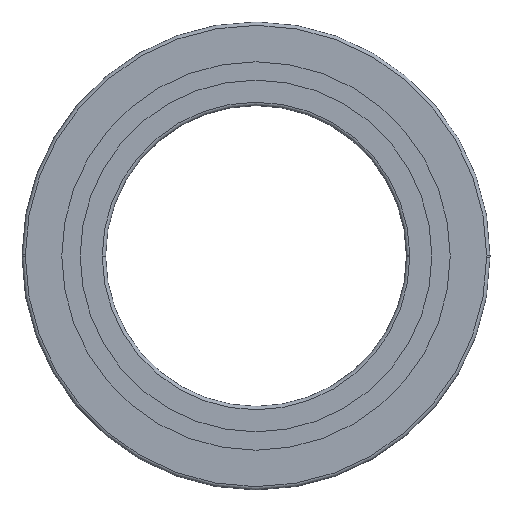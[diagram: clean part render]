
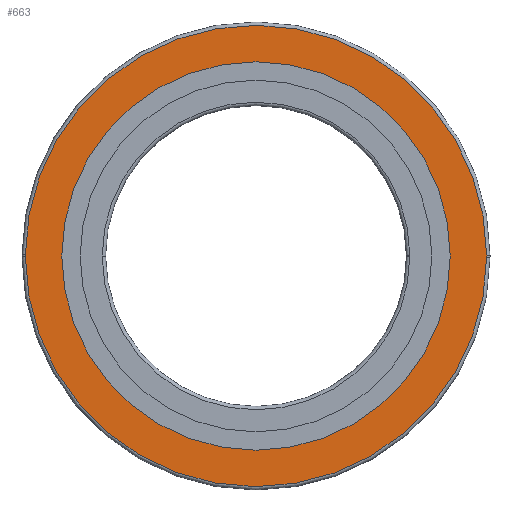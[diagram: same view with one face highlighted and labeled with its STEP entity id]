
A CAD part, front view. The second image highlights one B-rep face of the part: STEP entity #663.
In plain terms, the highlighted planar face has unit normal (0, -1, 0).
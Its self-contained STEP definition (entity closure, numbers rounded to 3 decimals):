
#363=VERTEX_POINT('',#908);
#379=VERTEX_POINT('',#925);
#405=EDGE_CURVE('',#653,#363,#951,.T.);
#413=EDGE_CURVE('',#689,#611,#961,.T.);
#507=VERTEX_POINT('',#1067);
#515=EDGE_CURVE('',#507,#379,#1076,.T.);
#611=VERTEX_POINT('',#1186);
#653=VERTEX_POINT('',#1233);
#663=ADVANCED_FACE('',(#1243,#1244),#1245,.F.);
#689=VERTEX_POINT('',#1273);
#753=EDGE_CURVE('',#363,#689,#1345,.T.);
#755=EDGE_CURVE('',#611,#653,#1347,.T.);
#757=EDGE_CURVE('',#379,#507,#1349,.T.);
#908=CARTESIAN_POINT('',(69.0,0.0,0.0));
#925=CARTESIAN_POINT('',(58.1,0.0,0.0));
#951=CIRCLE('',#1579,69.0);
#961=CIRCLE('',#1591,69.0);
#1067=CARTESIAN_POINT('',(-58.1,0.0,0.0));
#1076=CIRCLE('',#1727,58.1);
#1186=CARTESIAN_POINT('',(-69.0,0.0,0.0));
#1233=CARTESIAN_POINT('',(68.999,0.0,-0.427));
#1243=FACE_OUTER_BOUND('',#1929,.T.);
#1244=FACE_BOUND('',#1930,.T.);
#1245=PLANE('',#1931);
#1273=CARTESIAN_POINT('',(-68.999,0.0,0.427));
#1345=CIRCLE('',#2058,69.0);
#1347=CIRCLE('',#2061,69.0);
#1349=CIRCLE('',#2064,58.1);
#1579=AXIS2_PLACEMENT_3D('',#2273,#2274,#2275);
#1591=AXIS2_PLACEMENT_3D('',#2289,#2290,#2291);
#1727=AXIS2_PLACEMENT_3D('',#2463,#2464,#2465);
#1929=EDGE_LOOP('',(#2682,#2683,#2684,#2685));
#1930=EDGE_LOOP('',(#2686,#2687));
#1931=AXIS2_PLACEMENT_3D('',#2688,#2689,#2690);
#2058=AXIS2_PLACEMENT_3D('',#2808,#2809,#2810);
#2061=AXIS2_PLACEMENT_3D('',#2811,#2812,#2813);
#2064=AXIS2_PLACEMENT_3D('',#2814,#2815,#2816);
#2273=CARTESIAN_POINT('',(0.0,0.0,0.0));
#2274=DIRECTION('',(0.0,-1.0,0.0));
#2275=DIRECTION('',(-1.0,0.0,0.0));
#2289=CARTESIAN_POINT('',(0.0,0.0,0.0));
#2290=DIRECTION('',(0.0,-1.0,0.0));
#2291=DIRECTION('',(1.0,0.0,0.0));
#2463=CARTESIAN_POINT('',(0.0,0.0,0.0));
#2464=DIRECTION('',(0.0,-1.0,0.0));
#2465=DIRECTION('',(-1.0,0.0,0.0));
#2682=ORIENTED_EDGE('',*,*,#753,.T.);
#2683=ORIENTED_EDGE('',*,*,#413,.T.);
#2684=ORIENTED_EDGE('',*,*,#755,.T.);
#2685=ORIENTED_EDGE('',*,*,#405,.T.);
#2686=ORIENTED_EDGE('',*,*,#515,.F.);
#2687=ORIENTED_EDGE('',*,*,#757,.F.);
#2688=CARTESIAN_POINT('',(0.0,0.0,0.0));
#2689=DIRECTION('',(0.0,1.0,0.0));
#2690=DIRECTION('',(1.0,0.0,-0.0));
#2808=CARTESIAN_POINT('',(0.0,0.0,0.0));
#2809=DIRECTION('',(0.0,-1.0,0.0));
#2810=DIRECTION('',(1.0,0.0,0.0));
#2811=CARTESIAN_POINT('',(0.0,0.0,0.0));
#2812=DIRECTION('',(0.0,-1.0,0.0));
#2813=DIRECTION('',(-1.0,0.0,0.0));
#2814=CARTESIAN_POINT('',(0.0,0.0,0.0));
#2815=DIRECTION('',(0.0,-1.0,0.0));
#2816=DIRECTION('',(1.0,0.0,0.0));
